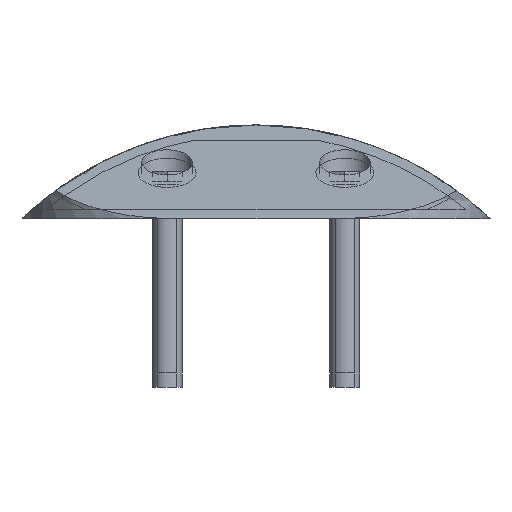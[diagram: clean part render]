
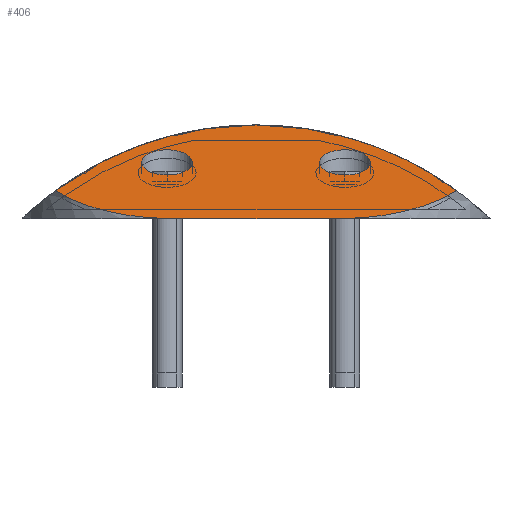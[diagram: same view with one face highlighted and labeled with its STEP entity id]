
A CAD part, left-side view. The second image highlights one B-rep face of the part: STEP entity #406.
In plain terms, the highlighted planar face has unit normal (-0.447, 0, 0.894).
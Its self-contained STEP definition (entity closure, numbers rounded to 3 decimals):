
#32 = VERTEX_POINT('',#33);
#33 = CARTESIAN_POINT('',(100.,0.,50.));
#99 = VERTEX_POINT('',#100);
#100 = CARTESIAN_POINT('',(0.,-45.,0.));
#107 = EDGE_CURVE('',#108,#99,#110,.T.);
#108 = VERTEX_POINT('',#109);
#109 = CARTESIAN_POINT('',(0.,45.,0.));
#110 = LINE('',#111,#112);
#111 = CARTESIAN_POINT('',(0.,125.,0.));
#112 = VECTOR('',#113,1.);
#113 = DIRECTION('',(0.,-1.,0.));
#161 = VERTEX_POINT('',#162);
#162 = CARTESIAN_POINT('',(29.74,107.241,
    14.87));
#205 = EDGE_CURVE('',#161,#32,#206,.T.);
#206 = ELLIPSE('',#207,405.287,181.25);
#207 = AXIS2_PLACEMENT_3D('',#208,#209,#210);
#208 = CARTESIAN_POINT('',(-262.5,0.,-131.25));
#209 = DIRECTION('',(0.447,0.,-0.894));
#210 = DIRECTION('',(0.894,0.,0.447));
#221 = VERTEX_POINT('',#222);
#222 = CARTESIAN_POINT('',(29.74,-107.241,
    14.87));
#263 = EDGE_CURVE('',#32,#221,#264,.T.);
#264 = ELLIPSE('',#265,405.287,181.25);
#265 = AXIS2_PLACEMENT_3D('',#266,#267,#268);
#266 = CARTESIAN_POINT('',(-262.5,0.,-131.25));
#267 = DIRECTION('',(0.447,0.,-0.894));
#268 = DIRECTION('',(0.894,0.,0.447));
#376 = EDGE_CURVE('',#108,#161,#377,.T.);
#377 = ELLIPSE('',#378,89.443,80.);
#378 = AXIS2_PLACEMENT_3D('',#379,#380,#381);
#379 = CARTESIAN_POINT('',(80.,45.,40.));
#380 = DIRECTION('',(0.447,0.,-0.894));
#381 = DIRECTION('',(-0.894,0.,-0.447));
#394 = EDGE_CURVE('',#221,#99,#395,.T.);
#395 = ELLIPSE('',#396,89.443,80.);
#396 = AXIS2_PLACEMENT_3D('',#397,#398,#399);
#397 = CARTESIAN_POINT('',(80.,-45.,40.));
#398 = DIRECTION('',(0.447,0.,-0.894));
#399 = DIRECTION('',(-0.894,0.,-0.447));
#406 = ADVANCED_FACE('',(#407,#414,#425),#436,.T.);
#407 = FACE_BOUND('',#408,.T.);
#408 = EDGE_LOOP('',(#409,#410,#411,#412,#413));
#409 = ORIENTED_EDGE('',*,*,#107,.T.);
#410 = ORIENTED_EDGE('',*,*,#394,.F.);
#411 = ORIENTED_EDGE('',*,*,#263,.F.);
#412 = ORIENTED_EDGE('',*,*,#205,.F.);
#413 = ORIENTED_EDGE('',*,*,#376,.F.);
#414 = FACE_BOUND('',#415,.T.);
#415 = EDGE_LOOP('',(#416));
#416 = ORIENTED_EDGE('',*,*,#417,.F.);
#417 = EDGE_CURVE('',#418,#418,#420,.T.);
#418 = VERTEX_POINT('',#419);
#419 = CARTESIAN_POINT('',(46.5,47.5,23.25));
#420 = ELLIPSE('',#421,15.093,13.5);
#421 = AXIS2_PLACEMENT_3D('',#422,#423,#424);
#422 = CARTESIAN_POINT('',(60.,47.5,30.));
#423 = DIRECTION('',(-0.447,0.,0.894));
#424 = DIRECTION('',(-0.894,0.,-0.447));
#425 = FACE_BOUND('',#426,.T.);
#426 = EDGE_LOOP('',(#427));
#427 = ORIENTED_EDGE('',*,*,#428,.F.);
#428 = EDGE_CURVE('',#429,#429,#431,.T.);
#429 = VERTEX_POINT('',#430);
#430 = CARTESIAN_POINT('',(46.5,-47.5,23.25));
#431 = ELLIPSE('',#432,15.093,13.5);
#432 = AXIS2_PLACEMENT_3D('',#433,#434,#435);
#433 = CARTESIAN_POINT('',(60.,-47.5,30.));
#434 = DIRECTION('',(-0.447,0.,0.894));
#435 = DIRECTION('',(-0.894,0.,-0.447));
#436 = PLANE('',#437);
#437 = AXIS2_PLACEMENT_3D('',#438,#439,#440);
#438 = CARTESIAN_POINT('',(42.133,0.,
    21.066));
#439 = DIRECTION('',(-0.447,0.,0.894));
#440 = DIRECTION('',(-0.894,0.,-0.447));
